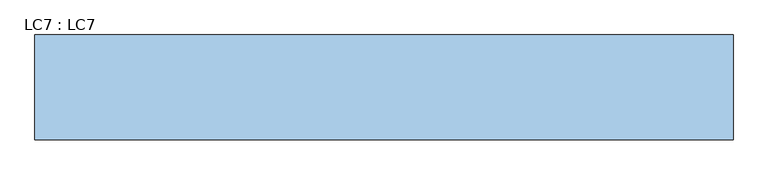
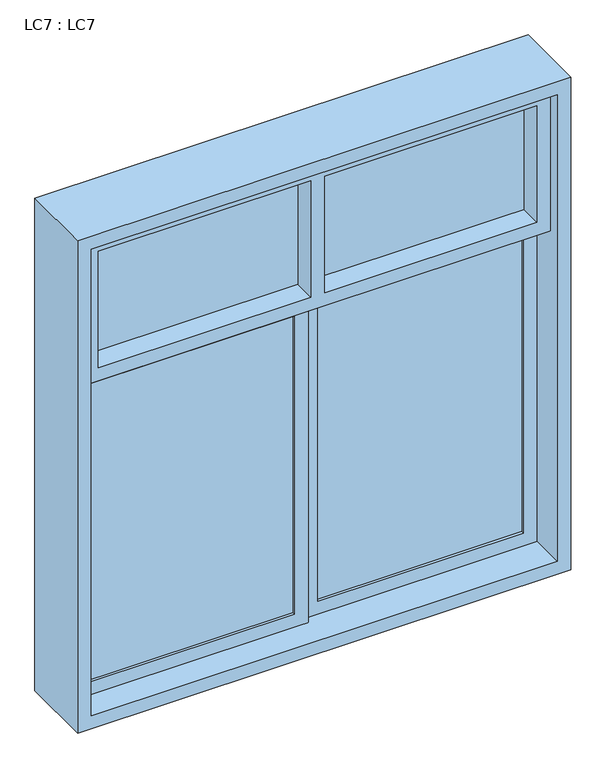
"""IFC4 building model written with IfcOpenShell, lengths in millimetres: window geometry, LC7 : LC7."""

from ifc_helpers import new_model, si_unit, frame, origin, place, context, project, spatial, polyline, outline, extrude, source, transform, mapped, element, save


def lc7_lc7_d4e3c0d7(model_context):
    return source(origin(), model_context, "Body", "SweptSolid", [
        extrude(outline(polyline([(800.0, 10.0304494), (50.0, 10.0304494), (50.0, 15.0304494), (800.0, 15.0304494), (800.0, 10.0304494)])), frame((0.0, 0.0, 1600.0), z_axis=(0.0, 0.0, 1.0), x_axis=(1.0, 0.0, 0.0)), (0.0, 0.0, 1.0), 1150.0),
        extrude(outline(polyline([(-50.0, -14.9391013), (-800.0, -14.9391013), (-800.0, -9.9695506), (-50.0, -9.9695506), (-50.0, -14.9391013)])), frame((0.0, 0.0, 1600.0), z_axis=(0.0, 0.0, 1.0), x_axis=(1.0, 0.0, 0.0)), (0.0, 0.0, 1.0), 1150.0),
        extrude(outline(polyline([(-25.0, -2.5), (-800.0, -2.5), (-800.0, 2.5), (-25.0, 2.5), (-25.0, -2.5)])), frame((0.0, 0.0, 2850.0), z_axis=(0.0, 0.0, 1.0), x_axis=(1.0, 0.0, 0.0)), (0.0, 0.0, 1.0), 450.0),
        extrude(outline(polyline([(800.0, -2.5), (25.0, -2.5), (25.0, 2.5), (800.0, 2.5), (800.0, -2.5)])), frame((0.0, 0.0, 2850.0), z_axis=(0.0, 0.0, 1.0), x_axis=(1.0, 0.0, 0.0)), (0.0, 0.0, 1.0), 450.0),
        extrude(outline(polyline([(2800.0, 850.0), (2800.0, 0.0), (1550.0, 0.0), (1550.0, 850.0), (2800.0, 850.0)]), holes=[polyline([(2750.0, 800.0), (1600.0, 800.0), (1600.0, 50.0), (2750.0, 50.0), (2750.0, 800.0)])]), frame((0.0, 0.0304494, 0.0), z_axis=(0.0, 1.0, 0.0), x_axis=(0.0, 0.0, 1.0)), (0.0, 0.0, 1.0), 24.9695506),
        extrude(outline(polyline([(2800.0, 0.0), (2800.0, -850.0), (1550.0, -850.0), (1550.0, 0.0), (2800.0, 0.0)]), holes=[polyline([(2750.0, -50.0), (1600.0, -50.0), (1600.0, -800.0), (2750.0, -800.0), (2750.0, -50.0)])]), frame((0.0, -24.9391013, 0.0), z_axis=(0.0, 1.0, 0.0), x_axis=(0.0, 0.0, 1.0)), (0.0, 0.0, 1.0), 24.9391013),
        extrude(outline(polyline([(3350.0, 850.0), (3350.0, -850.0), (2800.0, -850.0), (2800.0, 1.4599267), (2800.0, 850.0), (3350.0, 850.0)]), holes=[polyline([(3300.0, -25.0), (2850.0, -25.0), (2850.0, -800.0), (3300.0, -800.0), (3300.0, -25.0)]), polyline([(3300.0, 800.0), (2850.0, 800.0), (2850.0, 25.0), (3300.0, 25.0), (3300.0, 800.0)])]), frame((0.0, -85.0, 0.0), z_axis=(0.0, 1.0, 0.0), x_axis=(0.0, 0.0, 1.0)), (0.0, 0.0, 1.0), 100.0),
        extrude(outline(polyline([(3400.0, 900.0), (3400.0, -900.0), (1500.0, -900.0), (1500.0, 900.0), (3400.0, 900.0)]), holes=[polyline([(3350.0, 850.0), (1550.0, 850.0), (1550.0, -850.0), (3350.0, -850.0), (3350.0, 850.0)])]), frame((0.0, -126.3011339, 0.0), z_axis=(0.0, 1.0, 0.0), x_axis=(0.0, 0.0, 1.0)), (0.0, 0.0, 1.0), 270.0),
    ])


if __name__ == "__main__":
    model = new_model("IFC4")
    model_context = context("Model", 3, world=origin())
    ifc_project = project(units=[si_unit("LENGTHUNIT", "METRE", prefix="MILLI")], contexts=[model_context])
    site = spatial("IfcSite", under=ifc_project)
    building = spatial("IfcBuilding", under=site)
    placement = place(None, origin())
    lc7_lc7_shape = lc7_lc7_d4e3c0d7(model_context)
    element("IfcWindow", 1, ObjectType="LC7 : LC7", at=placement, inside=building, context=model_context, shape_type="MappedRepresentation", body=[
        mapped(lc7_lc7_shape, transform((0.0, 0.0, 0.0), x_axis=(1.0, 0.0, 0.0), y_axis=(0.0, 1.0, 0.0), z_axis=(0.0, 0.0, 1.0))),
    ])
    save(model, "model.ifc")
